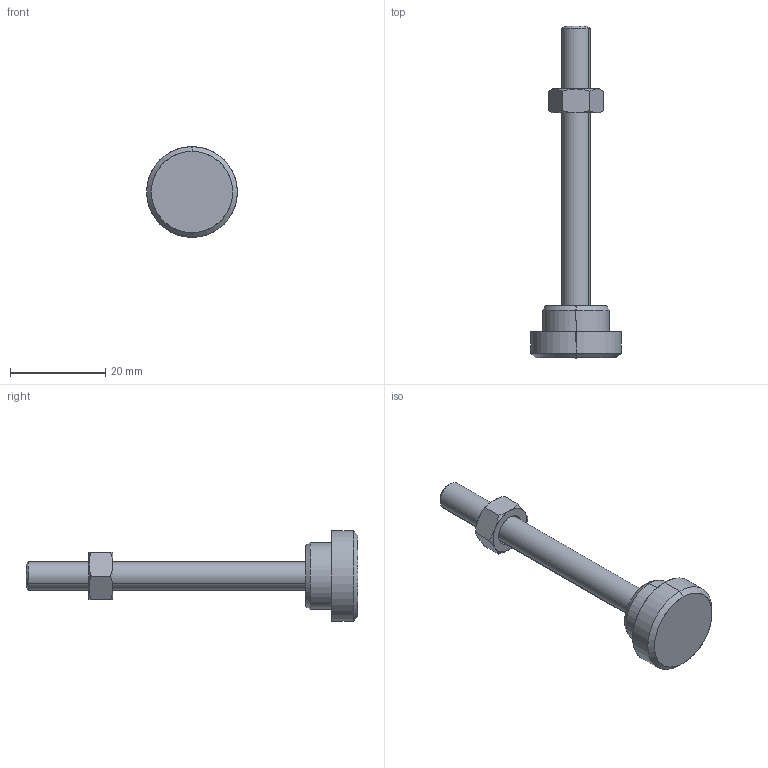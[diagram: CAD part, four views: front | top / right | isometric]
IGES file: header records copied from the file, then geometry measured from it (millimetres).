
Start section: SolidWorks IGES file using analytic representation for surfaces
Global section: file name: C:\Projetos\Ponteiras\PA\PA-M6.IGS; native system: SolidWorks 2012; preprocessor: SolidWorks 2012; author: Ricardo; date: 140129.132726; units: millimetre
Bounding box: 19.05 x 69.7 x 19.05 mm (x, y, z)
Surface area: 3148.6 mm2 (no closed solid volume)
Topology: 0 solids, 0 shells, 54 faces, 652 edges, 650 vertices
Faces by surface type: revolution 34, bspline 20
